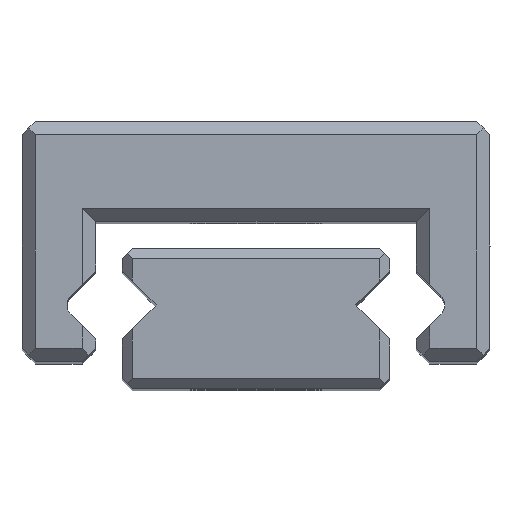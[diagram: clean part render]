
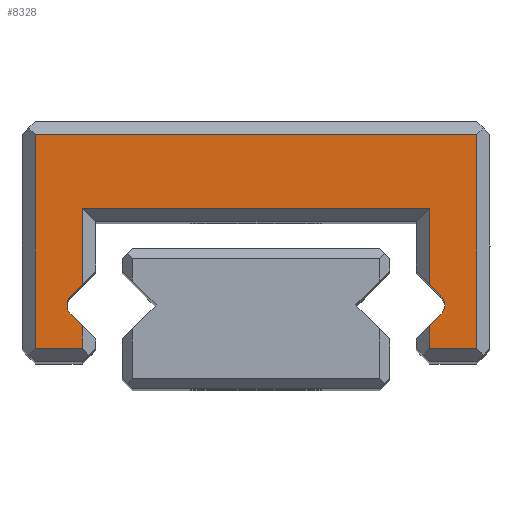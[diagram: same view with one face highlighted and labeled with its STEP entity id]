
A CAD part, top view. The second image highlights one B-rep face of the part: STEP entity #8328.
In plain terms, the highlighted planar face has unit normal (0, 0, 1).
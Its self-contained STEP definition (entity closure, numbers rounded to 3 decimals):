
#122 = CARTESIAN_POINT ( 'NONE',  ( 2.6, 0.543, 10. ) ) ;
#125 = CARTESIAN_POINT ( 'NONE',  ( -3.3, 3.4, 10. ) ) ;
#135 = CARTESIAN_POINT ( 'NONE',  ( 3.3, 0.2, 10. ) ) ;
#149 = CARTESIAN_POINT ( 'NONE',  ( -2.6, 0.543, 10. ) ) ;
#166 = CARTESIAN_POINT ( 'NONE',  ( 2.6, 0.2, 10. ) ) ;
#181 = CARTESIAN_POINT ( 'NONE',  ( -2.6, 2.3, 10. ) ) ;
#205 = CARTESIAN_POINT ( 'NONE',  ( 2.6, 2.3, 10. ) ) ;
#225 = CARTESIAN_POINT ( 'NONE',  ( -3.3, 0.2, 10. ) ) ;
#227 = CARTESIAN_POINT ( 'NONE',  ( -2.6, 0.2, 10. ) ) ;
#235 = CARTESIAN_POINT ( 'NONE',  ( 3.3, 3.4, 10. ) ) ;
#253 = CARTESIAN_POINT ( 'NONE',  ( 2.6, 1.157, 10. ) ) ;
#260 = CARTESIAN_POINT ( 'NONE',  ( -2.6, 1.157, 10. ) ) ;
#269 = CARTESIAN_POINT ( 'NONE',  ( -2.766, 0.709, 10. ) ) ;
#271 = CARTESIAN_POINT ( 'NONE',  ( 2.766, 0.991, 10. ) ) ;
#275 = CARTESIAN_POINT ( 'NONE',  ( 2.766, 0.709, 10. ) ) ;
#1118 = VECTOR ( 'NONE', #6933, 1000. ) ;
#1540 = CARTESIAN_POINT ( 'NONE',  ( -2.766, 0.991, 10. ) ) ;
#1550 = CARTESIAN_POINT ( 'NONE',  ( -2.824, 0.85, 10. ) ) ;
#1982 = CARTESIAN_POINT ( 'NONE',  ( 2.624, 0.85, 10. ) ) ;
#1983 = DIRECTION ( 'NONE',  ( 0., 0., -1. ) ) ;
#1984 = DIRECTION ( 'NONE',  ( -1., 0., 0. ) ) ;
#1986 = LINE ( 'NONE', #1994, #2824 ) ;
#1994 = CARTESIAN_POINT ( 'NONE',  ( 2.766, 0.991, 10. ) ) ;
#1995 = DIRECTION ( 'NONE',  ( 0.707, -0.707, 0. ) ) ;
#2087 = EDGE_CURVE ( 'NONE', #5379, #5369, #9716, .T. ) ;
#2781 = VECTOR ( 'NONE', #3895, 1000. ) ;
#2798 = VECTOR ( 'NONE', #3740, 1000. ) ;
#2804 = AXIS2_PLACEMENT_3D ( 'NONE', #1982, #1983, #1984 ) ;
#2822 = CIRCLE ( 'NONE', #2804, 0.2 ) ;
#2824 = VECTOR ( 'NONE', #1995, 1000. ) ;
#2835 = VECTOR ( 'NONE', #3719, 1000. ) ;
#2895 = VECTOR ( 'NONE', #3737, 1000. ) ;
#3643 = LINE ( 'NONE', #3655, #7427 ) ;
#3655 = CARTESIAN_POINT ( 'NONE',  ( 2.6, 0.2, 10. ) ) ;
#3656 = DIRECTION ( 'NONE',  ( 0., -1., 0. ) ) ;
#3657 = LINE ( 'NONE', #3658, #7385 ) ;
#3658 = CARTESIAN_POINT ( 'NONE',  ( -3.3, 0.2, 10. ) ) ;
#3659 = DIRECTION ( 'NONE',  ( 0., -1., 0. ) ) ;
#3660 = LINE ( 'NONE', #3661, #7404 ) ;
#3661 = CARTESIAN_POINT ( 'NONE',  ( -2.6, 0.343, 10. ) ) ;
#3662 = DIRECTION ( 'NONE',  ( 0., 1., 0. ) ) ;
#3663 = LINE ( 'NONE', #3664, #7317 ) ;
#3664 = CARTESIAN_POINT ( 'NONE',  ( -2.6, 0.2, 10. ) ) ;
#3665 = DIRECTION ( 'NONE',  ( 1., 0., 0. ) ) ;
#3705 = CARTESIAN_POINT ( 'NONE',  ( 2.4, 2.3, 10. ) ) ;
#3711 = LINE ( 'NONE', #3705, #2835 ) ;
#3719 = DIRECTION ( 'NONE',  ( 1., 0., 0. ) ) ;
#3735 = LINE ( 'NONE', #3736, #2895 ) ;
#3736 = CARTESIAN_POINT ( 'NONE',  ( -3.3, 3.4, 10. ) ) ;
#3737 = DIRECTION ( 'NONE',  ( -1., 0., 0. ) ) ;
#3738 = LINE ( 'NONE', #3739, #2798 ) ;
#3739 = CARTESIAN_POINT ( 'NONE',  ( 3.3, 3.4, 10. ) ) ;
#3740 = DIRECTION ( 'NONE',  ( 0., 1., 0. ) ) ;
#3893 = LINE ( 'NONE', #3894, #2781 ) ;
#3894 = CARTESIAN_POINT ( 'NONE',  ( 2.6, 1.357, 10. ) ) ;
#3895 = DIRECTION ( 'NONE',  ( 0., -1., 0. ) ) ;
#4042 = LINE ( 'NONE', #4043, #9016 ) ;
#4043 = CARTESIAN_POINT ( 'NONE',  ( -2.766, 0.991, 10. ) ) ;
#4044 = DIRECTION ( 'NONE',  ( 0.707, 0.707, 0. ) ) ;
#4063 = LINE ( 'NONE', #4069, #9044 ) ;
#4064 = CARTESIAN_POINT ( 'NONE',  ( -2.624, 0.85, 10. ) ) ;
#4065 = DIRECTION ( 'NONE',  ( 0., 0., -1. ) ) ;
#4066 = DIRECTION ( 'NONE',  ( 1., 0., 0. ) ) ;
#4069 = CARTESIAN_POINT ( 'NONE',  ( -2.4, 0.343, 10. ) ) ;
#4070 = DIRECTION ( 'NONE',  ( -0.707, 0.707, 0. ) ) ;
#5369 = VERTEX_POINT ( 'NONE', #1540 ) ;
#5379 = VERTEX_POINT ( 'NONE', #1550 ) ;
#6230 = LINE ( 'NONE', #6360, #7397 ) ;
#6360 = CARTESIAN_POINT ( 'NONE',  ( -2.6, 2.1, 10. ) ) ;
#6364 = DIRECTION ( 'NONE',  ( 0., 1., 0. ) ) ;
#6366 = LINE ( 'NONE', #6369, #7400 ) ;
#6369 = CARTESIAN_POINT ( 'NONE',  ( 3.3, 0.2, 10. ) ) ;
#6371 = DIRECTION ( 'NONE',  ( 1., 0., 0. ) ) ;
#6931 = LINE ( 'NONE', #6932, #1118 ) ;
#6932 = CARTESIAN_POINT ( 'NONE',  ( 2.4, 0.343, 10. ) ) ;
#6933 = DIRECTION ( 'NONE',  ( -0.707, -0.707, 0. ) ) ;
#7118 = EDGE_CURVE ( 'NONE', #10447, #10248, #6230, .T. ) ;
#7119 = EDGE_CURVE ( 'NONE', #10226, #10240, #6366, .T. ) ;
#7164 = EDGE_CURVE ( 'NONE', #10103, #10226, #3643, .T. ) ;
#7165 = EDGE_CURVE ( 'NONE', #10137, #10390, #3657, .T. ) ;
#7166 = EDGE_CURVE ( 'NONE', #10394, #10193, #3660, .T. ) ;
#7167 = EDGE_CURVE ( 'NONE', #10390, #10394, #3663, .T. ) ;
#7185 = EDGE_CURVE ( 'NONE', #10248, #10367, #3711, .T. ) ;
#7191 = EDGE_CURVE ( 'NONE', #10403, #10137, #3735, .T. ) ;
#7192 = EDGE_CURVE ( 'NONE', #10240, #10403, #3738, .T. ) ;
#7232 = EDGE_CURVE ( 'NONE', #10367, #10438, #3893, .T. ) ;
#7317 = VECTOR ( 'NONE', #3665, 1000. ) ;
#7385 = VECTOR ( 'NONE', #3659, 1000. ) ;
#7397 = VECTOR ( 'NONE', #6364, 1000. ) ;
#7400 = VECTOR ( 'NONE', #6371, 1000. ) ;
#7404 = VECTOR ( 'NONE', #3662, 1000. ) ;
#7427 = VECTOR ( 'NONE', #3656, 1000. ) ;
#7576 = ORIENTED_EDGE ( 'NONE', *, *, #7118, .T. ) ;
#7580 = ORIENTED_EDGE ( 'NONE', *, *, #7166, .T. ) ;
#7582 = ORIENTED_EDGE ( 'NONE', *, *, #7167, .T. ) ;
#7583 = ORIENTED_EDGE ( 'NONE', *, *, #7191, .T. ) ;
#7584 = ORIENTED_EDGE ( 'NONE', *, *, #7119, .T. ) ;
#7585 = ORIENTED_EDGE ( 'NONE', *, *, #7165, .T. ) ;
#7591 = ORIENTED_EDGE ( 'NONE', *, *, #7192, .T. ) ;
#7592 = ORIENTED_EDGE ( 'NONE', *, *, #11840, .T. ) ;
#7594 = ORIENTED_EDGE ( 'NONE', *, *, #7164, .T. ) ;
#7598 = ORIENTED_EDGE ( 'NONE', *, *, #8156, .T. ) ;
#7620 = ORIENTED_EDGE ( 'NONE', *, *, #8132, .T. ) ;
#7623 = ORIENTED_EDGE ( 'NONE', *, *, #7232, .T. ) ;
#7647 = ORIENTED_EDGE ( 'NONE', *, *, #8128, .T. ) ;
#7650 = ORIENTED_EDGE ( 'NONE', *, *, #8148, .T. ) ;
#7658 = ORIENTED_EDGE ( 'NONE', *, *, #8154, .T. ) ;
#7663 = ORIENTED_EDGE ( 'NONE', *, *, #2087, .T. ) ;
#7665 = ORIENTED_EDGE ( 'NONE', *, *, #7185, .T. ) ;
#8034 = EDGE_LOOP ( 'NONE', ( #7592, #7594, #7584, #7591, #7583, #7585, #7582, #7580, #7598, #7658, #7663, #7650, #7576, #7665, #7623, #7620, #7647 ) ) ;
#8128 = EDGE_CURVE ( 'NONE', #10462, #10485, #2822, .T. ) ;
#8132 = EDGE_CURVE ( 'NONE', #10438, #10462, #1986, .T. ) ;
#8148 = EDGE_CURVE ( 'NONE', #5369, #10447, #4042, .T. ) ;
#8154 = EDGE_CURVE ( 'NONE', #10460, #5379, #8970, .T. ) ;
#8156 = EDGE_CURVE ( 'NONE', #10193, #10460, #4063, .T. ) ;
#8328 = ADVANCED_FACE ( 'NONE', ( #11412 ), #11406, .T. ) ;
#8591 = AXIS2_PLACEMENT_3D ( 'NONE', #11408, #11414, #11415 ) ;
#8660 = DIRECTION ( 'NONE',  ( 1., 0., 0. ) ) ;
#8663 = CARTESIAN_POINT ( 'NONE',  ( -2.624, 0.85, 10. ) ) ;
#8664 = DIRECTION ( 'NONE',  ( 0., 0., -1. ) ) ;
#8970 = CIRCLE ( 'NONE', #9042, 0.2 ) ;
#9016 = VECTOR ( 'NONE', #4044, 1000. ) ;
#9042 = AXIS2_PLACEMENT_3D ( 'NONE', #4064, #4065, #4066 ) ;
#9044 = VECTOR ( 'NONE', #4070, 1000. ) ;
#9686 = AXIS2_PLACEMENT_3D ( 'NONE', #8663, #8664, #8660 ) ;
#9716 = CIRCLE ( 'NONE', #9686, 0.2 ) ;
#10103 = VERTEX_POINT ( 'NONE', #122 ) ;
#10137 = VERTEX_POINT ( 'NONE', #125 ) ;
#10193 = VERTEX_POINT ( 'NONE', #149 ) ;
#10226 = VERTEX_POINT ( 'NONE', #166 ) ;
#10240 = VERTEX_POINT ( 'NONE', #135 ) ;
#10248 = VERTEX_POINT ( 'NONE', #181 ) ;
#10367 = VERTEX_POINT ( 'NONE', #205 ) ;
#10390 = VERTEX_POINT ( 'NONE', #225 ) ;
#10394 = VERTEX_POINT ( 'NONE', #227 ) ;
#10403 = VERTEX_POINT ( 'NONE', #235 ) ;
#10438 = VERTEX_POINT ( 'NONE', #253 ) ;
#10447 = VERTEX_POINT ( 'NONE', #260 ) ;
#10460 = VERTEX_POINT ( 'NONE', #269 ) ;
#10462 = VERTEX_POINT ( 'NONE', #271 ) ;
#10485 = VERTEX_POINT ( 'NONE', #275 ) ;
#11406 = PLANE ( 'NONE',  #8591 ) ;
#11408 = CARTESIAN_POINT ( 'NONE',  ( -2.624, 0.85, 10. ) ) ;
#11412 = FACE_OUTER_BOUND ( 'NONE', #8034, .T. ) ;
#11414 = DIRECTION ( 'NONE',  ( 0., 0., 1. ) ) ;
#11415 = DIRECTION ( 'NONE',  ( 1., 0., 0. ) ) ;
#11840 = EDGE_CURVE ( 'NONE', #10485, #10103, #6931, .T. ) ;
